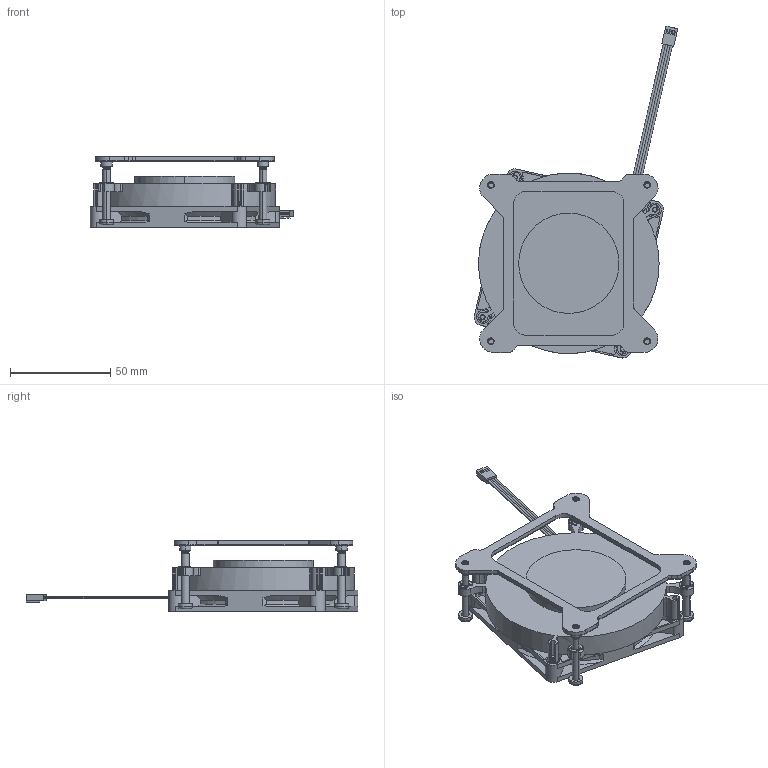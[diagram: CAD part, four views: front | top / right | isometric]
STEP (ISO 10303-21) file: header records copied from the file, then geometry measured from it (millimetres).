
FILE_DESCRIPTION((''),'2;1');
FILE_NAME('RGD3129-25-002_ME_ASM','2022-10-11T',('User'),(''),'PRO/ENGINEER BY PARAMETRIC TECHNOLOGY CORPORATION, 2017170','PRO/ENGINEER BY PARAMETRIC TECHNOLOGY CORPORATION, 2017170','');
FILE_SCHEMA(('CONFIG_CONTROL_DESIGN'));
Products named in the file (27): D90X15A_C_1_1_1; 13MM_CPB_1_1_1; 78X78X15_D90_CPB_ASM_1_ASM_1_AS_ASM; 78X78X15_D90_AC_ASM_1_ASM_1_ASM; DEAKTOP_SCREW_D7_30_8L_1_3; NETW3_1_2; DESKTOP_SCREW_ASSY_ASM_1_ASM_2_ASM; DESKTOP_78_D90X15H_AC_ASSY_ASM__ASM; 8010_1_1; PRT0002_1_1; MANIFOLD_SOLID_BREP_72865_1; MANIFOLD_SOLID_BREP_73184_1; MANIFOLD_SOLID_BREP_73480_1; MANIFOLD_SOLID_BREP_73771_1; PIN2_1_ASM_1_ASM; 4PIN_1_1; R128010BUAF325AR_1_ASM_ASM_1_AS_ASM; R128010BUAF325AR_ASM_ASM_1_ASM__ASM; LABEL_RGE-ST001-1_1_4; FAN_SCREW_1-0200030877__1_1; R128010BUAF325AR_10H_ASSY__ASM__ASM; 850-BP-1700_1_1_4; ADHESIVE_1_1_7; MYLAR_1_1_7; 850-BP1700_ASM_1_ASM_5_ASM; RGD3129-25-002_ME_ASM_1_ASM; RGD3129-25-002_ME_ASM
Assembly tree (32 placements, depth 7):
  RGD3129-25-002_ME_ASM
    RGD3129-25-002_ME_ASM_1_ASM
      DESKTOP_78_D90X15H_AC_ASSY_ASM__ASM
        78X78X15_D90_AC_ASM_1_ASM_1_ASM
          78X78X15_D90_CPB_ASM_1_ASM_1_AS_ASM
            D90X15A_C_1_1_1
            13MM_CPB_1_1_1
        DESKTOP_SCREW_ASSY_ASM_1_ASM_2_ASM  x4
          DEAKTOP_SCREW_D7_30_8L_1_3
          NETW3_1_2
      R128010BUAF325AR_10H_ASSY__ASM__ASM
        R128010BUAF325AR_ASM_ASM_1_ASM__ASM
          R128010BUAF325AR_1_ASM_ASM_1_AS_ASM
            8010_1_1
            PRT0002_1_1
            PIN2_1_ASM_1_ASM
              MANIFOLD_SOLID_BREP_72865_1
              MANIFOLD_SOLID_BREP_73184_1
              MANIFOLD_SOLID_BREP_73480_1
              MANIFOLD_SOLID_BREP_73771_1
            4PIN_1_1
        LABEL_RGE-ST001-1_1_4
        FAN_SCREW_1-0200030877__1_1  x4
      850-BP1700_ASM_1_ASM_5_ASM
        850-BP-1700_1_1_4
        ADHESIVE_1_1_7
        MYLAR_1_1_7
Bounding box: 101.54 x 165.62 x 35.3 mm (x, y, z)
Volume: 133206.9 mm3; surface area: 69657.2 mm2
Topology: 25 solids, 25 shells, 2004 faces, 5756 edges, 3895 vertices
Faces by surface type: plane 896, cylinder 778, extrusion 109, cone 102, bspline 59, torus 40, sphere 12, revolution 8
Entity records: 95104 total; most frequent: CARTESIAN_POINT 41740, ORIENTED_EDGE 9428, DIRECTION 8540, EDGE_CURVE 4714, VERTEX_POINT 3169, PRESENTATION_STYLE_ASSIGNMENT 3142, STYLED_ITEM 3106, CURVE_STYLE 3098
